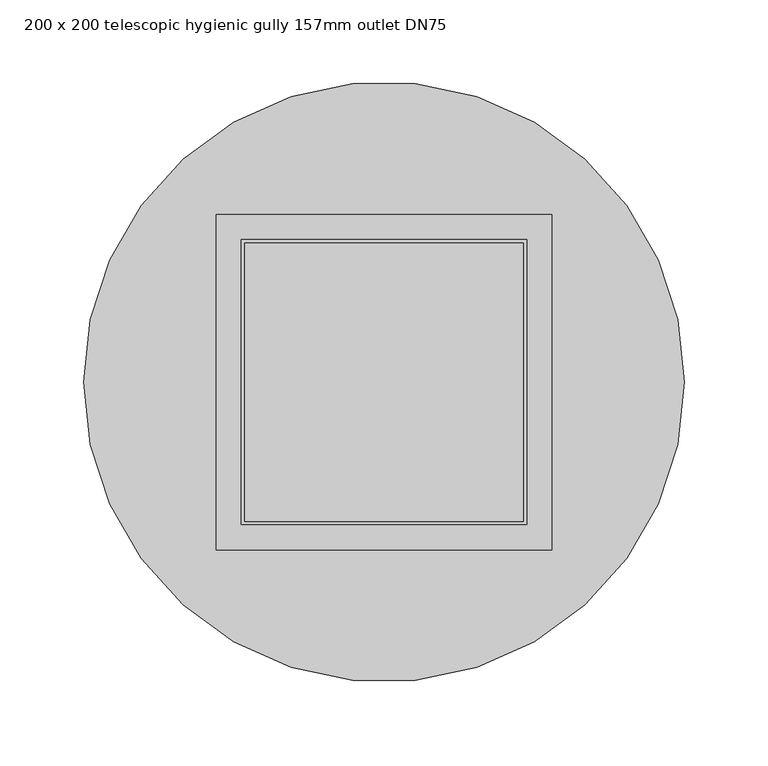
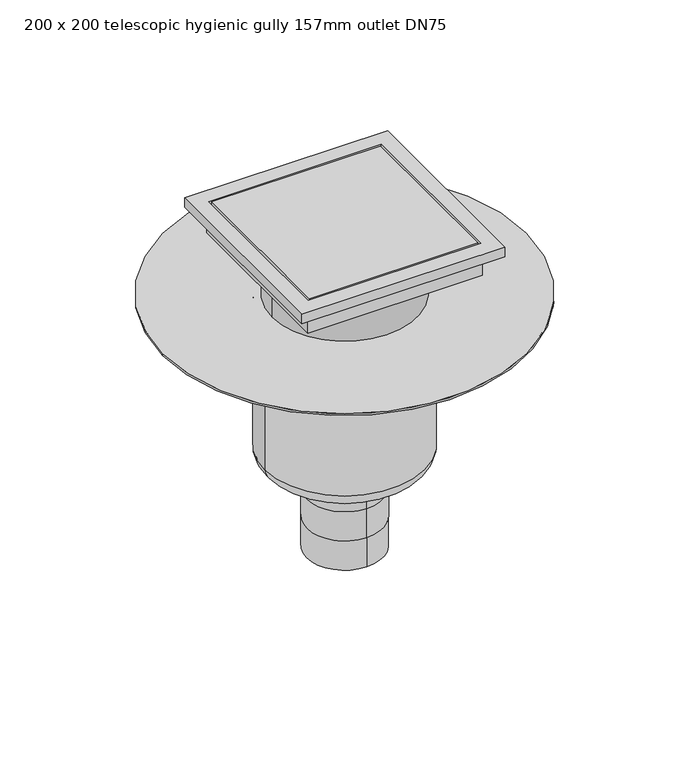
"""IFC4 building model written with IfcOpenShell, lengths in millimetres: sanitary terminal geometry, PF_ST_UN_Siphon telescopics epur hygiene first_ACO : 200 x 200 telescopic hygienic gully 157mm outlet DN75."""

from ifc_helpers import new_model, si_unit, point, frame, origin, origin_2d, place, context, project, spatial, polyline, circle_curve, ellipse_curve, trimmed, segment, composite_curve, outline, extrude, faceted_brep, source, transform, mapped, element, save
from ifc_brep_helpers import plane_surface, cylinder_surface, revolved_surface, advanced_brep


def sanitary_terminal_200_x_200_telescopic_hygienic_gully_157mm_3ad70e56(model_context):
    return source(origin(), model_context, "Body", "SolidModel", [
        advanced_brep(
        [(0.0, -37.5, -456.0), (0.0, 37.5, -456.0), (0.0, -37.5, -425.6666667), (0.0, 37.5, -425.6666667), (0.0, -37.5, -395.3333333), (0.0, 37.5, -395.3333333), (0.0, 37.5, -365.0), (37.5, 0.0, -365.0), (0.0, -37.5, -365.0), (-37.5, 0.0, -365.0), (78.5, 0.0, -350.0), (-78.5, 0.0, -350.0), (-78.5, 0.0, -196.0), (78.5, 0.0, -196.0), (63.5, 0.0, -365.0), (-63.5, 0.0, -365.0), (-179.0, 0.0, -196.0), (179.0, 0.0, -196.0), (-179.0, 0.0, -194.0), (179.0, 0.0, -194.0)],
        [
            (0, 1, circle_curve(frame((0.0, 0.0, -456.0), z_axis=(0.0, 0.0, -1.0), x_axis=(0.0, 1.0, 0.0)), 37.5)),
            (1, 0, circle_curve(frame((0.0, 0.0, -456.0), z_axis=(0.0, 0.0, -1.0), x_axis=(0.0, 1.0, 0.0)), 37.5)),
            (0, 2),
            (2, 3, circle_curve(frame((0.0, 0.0, -425.6666667), z_axis=(0.0, 0.0, -1.0), x_axis=(0.0, 1.0, 0.0)), 37.5)),
            (3, 1),
            (3, 2, circle_curve(frame((0.0, 0.0, -425.6666667), z_axis=(0.0, 0.0, -1.0), x_axis=(0.0, 1.0, 0.0)), 37.5)),
            (4, 2),
            (3, 5),
            (5, 4, circle_curve(frame((0.0, 0.0, -395.3333333), z_axis=(0.0, 0.0, -1.0), x_axis=(1.0, 0.0, 0.0)), 37.5)),
            (4, 5, circle_curve(frame((0.0, 0.0, -395.3333333), z_axis=(0.0, 0.0, -1.0), x_axis=(-1.0, 0.0, 0.0)), 37.5)),
            (5, 6),
            (6, 7, circle_curve(frame((0.0, 0.0, -365.0), z_axis=(0.0, 0.0, -1.0), x_axis=(0.0, 1.0, 0.0)), 37.5)),
            (7, 8, circle_curve(frame((0.0, 0.0, -365.0), z_axis=(0.0, 0.0, -1.0), x_axis=(0.0, 1.0, 0.0)), 37.5)),
            (8, 4),
            (8, 9, circle_curve(frame((0.0, 0.0, -365.0), z_axis=(0.0, 0.0, -1.0), x_axis=(0.0, 1.0, 0.0)), 37.5)),
            (9, 6, circle_curve(frame((0.0, 0.0, -365.0), z_axis=(0.0, 0.0, -1.0), x_axis=(0.0, 1.0, 0.0)), 37.5)),
            (10, 11, circle_curve(frame((0.0, 0.0, -350.0), z_axis=(0.0, 0.0, 1.0), x_axis=(-1.0, 0.0, 0.0)), 78.5)),
            (11, 12),
            (12, 13, circle_curve(frame((0.0, 0.0, -196.0), z_axis=(0.0, 0.0, -1.0), x_axis=(-1.0, 0.0, 0.0)), 78.5)),
            (13, 10),
            (11, 10, circle_curve(frame((0.0, 0.0, -350.0), z_axis=(0.0, 0.0, 1.0), x_axis=(-1.0, 0.0, 0.0)), 78.5)),
            (13, 12, circle_curve(frame((0.0, 0.0, -196.0), z_axis=(0.0, 0.0, -1.0), x_axis=(-1.0, 0.0, 0.0)), 78.5)),
            (10, 14, circle_curve(frame((63.5, 0.0, -350.0), z_axis=(0.0, 1.0, 0.0), x_axis=(-1.0, 0.0, 0.0)), 15.0)),
            (14, 15, circle_curve(frame((0.0, 0.0, -365.0), z_axis=(0.0, 0.0, 1.0), x_axis=(-1.0, 0.0, 0.0)), 63.5)),
            (15, 11, circle_curve(frame((-63.5, 0.0, -350.0), z_axis=(0.0, 1.0, 0.0), x_axis=(1.0, 0.0, 0.0)), 15.0)),
            (15, 14, circle_curve(frame((0.0, 0.0, -365.0), z_axis=(0.0, 0.0, 1.0), x_axis=(-1.0, 0.0, 0.0)), 63.5)),
            (14, 7),
            (9, 15),
            (16, 17, circle_curve(frame((0.0, 0.0, -196.0), z_axis=(0.0, 0.0, -1.0), x_axis=(1.0, 0.0, 0.0)), 179.0)),
            (17, 16, circle_curve(frame((0.0, 0.0, -196.0), z_axis=(0.0, 0.0, -1.0), x_axis=(1.0, 0.0, 0.0)), 179.0)),
            (18, 19, circle_curve(frame((0.0, 0.0, -194.0), z_axis=(0.0, 0.0, 1.0), x_axis=(1.0, 0.0, 0.0)), 179.0)),
            (19, 18, circle_curve(frame((0.0, 0.0, -194.0), z_axis=(0.0, 0.0, 1.0), x_axis=(1.0, 0.0, 0.0)), 179.0)),
            (17, 19),
            (18, 16),
        ],
        [
            plane_surface(frame((0.0, 37.5, -456.0), z_axis=(0.0, 0.0, -1.0), x_axis=(1.0, 0.0, 0.0))),
            cylinder_surface(frame((0.0, 0.0, -425.6666667), z_axis=(0.0, 0.0, -1.0), x_axis=(0.0, 1.0, 0.0)), 37.5),
            cylinder_surface(frame((0.0, 0.0, -395.3333333), z_axis=(0.0, 0.0, -1.0), x_axis=(1.0, 0.0, 0.0)), 37.5),
            cylinder_surface(frame((0.0, 0.0, -395.3333333), z_axis=(0.0, 0.0, -1.0), x_axis=(-1.0, 0.0, 0.0)), 37.5),
            cylinder_surface(frame((0.0, 0.0, -365.0), z_axis=(0.0, 0.0, -1.0), x_axis=(0.0, 1.0, 0.0)), 37.5),
            cylinder_surface(frame((0.0, 0.0, -134.0), z_axis=(0.0, 0.0, -1.0), x_axis=(-1.0, 0.0, 0.0)), 78.5),
            revolved_surface(trimmed(ellipse_curve(frame((-63.5, 0.0, -350.0), z_axis=(0.0, -1.0, 0.0), x_axis=(1.0, 0.0, 0.0)), 15.0, 15.0), [point((-78.5, 0.0, -350.0))], [point((-63.5, 0.0, -365.0))], True, "CARTESIAN"), (0.0, 0.0, -134.0), (0.0, 0.0, -1.0)),
            plane_surface(frame((0.0, 0.0, -365.0), z_axis=(0.0, 0.0, -1.0), x_axis=(-1.0, 0.0, 0.0))),
            plane_surface(frame((179.0, 0.0, -196.0), z_axis=(0.0, 0.0, -1.0), x_axis=(0.0, -1.0, 0.0))),
            plane_surface(frame((179.0, 0.0, -194.0), z_axis=(0.0, 0.0, 1.0), x_axis=(0.0, 1.0, 0.0))),
            cylinder_surface(frame((0.0, 0.0, -196.0), z_axis=(0.0, 0.0, 1.0), x_axis=(1.0, 0.0, 0.0)), 179.0),
        ],
        [
            (0, [[1, 2]]),
            (1, [[-1, 3, 4, 5]]),
            (1, [[-2, -5, 6, -3]]),
            (2, [[7, -6, 8, 9]]),
            (3, [[-7, 10, -8, -4]]),
            (4, [[11, 12, 13, 14, -9]]),
            (4, [[-11, -10, -14, 15, 16]]),
            (5, [[17, 18, 19, 20]]),
            (5, [[-18, 21, -20, 22]]),
            (6, [[-17, 23, 24, 25]]),
            (6, [[-21, -25, 26, -23]]),
            (7, [[-24, 27, -12, -16, 28]]),
            (7, [[-26, -28, -15, -13, -27]]),
            (8, [[29, 30], [-19, -22]]),
            (9, [[31, 32]]),
            (10, [[-30, 33, -31, 34]]),
            (10, [[-29, -34, -32, -33]]),
        ],
    ),
        extrude(outline(composite_curve([segment(trimmed(circle_curve(origin_2d(), 71.5), [point((-71.5, 0.0))], [point((71.5, 0.0))], False, "CARTESIAN"), True, "CONTINUOUS"), segment(trimmed(circle_curve(origin_2d(), 71.5), [point((71.5, 0.0))], [point((-71.5, 0.0))], False, "CARTESIAN"), True, "CONTINUOUS")], self_intersect=False)), frame((0.0, 0.0, -210.0), z_axis=(0.0, 0.0, 1.0), x_axis=(1.0, 0.0, 0.0)), (0.0, 0.0, 1.0), 57.0),
        faceted_brep([(100.0, 100.0, -130.0), (100.0, 100.0, -120.0), (100.0, -100.0, -120.0), (100.0, -100.0, -130.0), (86.0, 86.0, -153.0), (86.0, 86.0, -130.0), (86.0, -86.0, -130.0), (86.0, -86.0, -153.0), (85.0, -85.0, -120.0), (85.0, 85.0, -120.0), (85.0, 85.0, -143.0), (85.0, -85.0, -143.0), (-100.0, -100.0, -120.0), (-100.0, -100.0, -130.0), (-86.0, -86.0, -130.0), (-86.0, -86.0, -153.0), (-85.0, -85.0, -120.0), (-85.0, -85.0, -143.0), (-100.0, 100.0, -120.0), (-100.0, 100.0, -130.0), (-86.0, 86.0, -130.0), (-86.0, 86.0, -153.0), (-85.0, 85.0, -120.0), (-85.0, 85.0, -143.0)], [[[0, 1, 2, 3]], [[4, 5, 6, 7]], [[8, 9, 10, 11]], [[3, 2, 12, 13]], [[7, 6, 14, 15]], [[16, 8, 11, 17]], [[13, 12, 18, 19]], [[15, 14, 20, 21]], [[22, 16, 17, 23]], [[2, 1, 18, 12], [9, 8, 16, 22]], [[1, 0, 19, 18]], [[0, 3, 13, 19], [6, 5, 20, 14]], [[5, 4, 21, 20]], [[4, 7, 15, 21]], [[9, 22, 23, 10]], [[11, 10, 23, 17]]]),
        extrude(outline(polyline([(83.0, 83.0), (83.0, -83.0), (-83.0, -83.0), (-83.0, 83.0), (83.0, 83.0)])), frame((0.0, 0.0, -143.0), z_axis=(0.0, 0.0, 1.0), x_axis=(1.0, 0.0, 0.0)), (0.0, 0.0, 1.0), 23.0),
    ])


if __name__ == "__main__":
    model = new_model("IFC4")
    model_context = context("Model", 3, world=origin())
    ifc_project = project(units=[si_unit("LENGTHUNIT", "METRE", prefix="MILLI")], contexts=[model_context])
    site = spatial("IfcSite", under=ifc_project)
    building = spatial("IfcBuilding", under=site)
    placement = place(None, origin())
    sanitary_terminal_200_x_200_telescopic_hygienic_gully_157mm_shape = sanitary_terminal_200_x_200_telescopic_hygienic_gully_157mm_3ad70e56(model_context)
    element("IfcSanitaryTerminal", 1, ObjectType="PF_ST_UN_Siphon telescopics epur hygiene first_ACO : 200 x 200 telescopic hygienic gully 157mm outlet DN75", at=placement, inside=building, context=model_context, shape_type="MappedRepresentation", body=[
        mapped(sanitary_terminal_200_x_200_telescopic_hygienic_gully_157mm_shape, transform((0.0, 0.0, 0.0), x_axis=(1.0, 0.0, 0.0), y_axis=(0.0, 1.0, 0.0), z_axis=(0.0, 0.0, 1.0))),
    ])
    save(model, "model.ifc")
